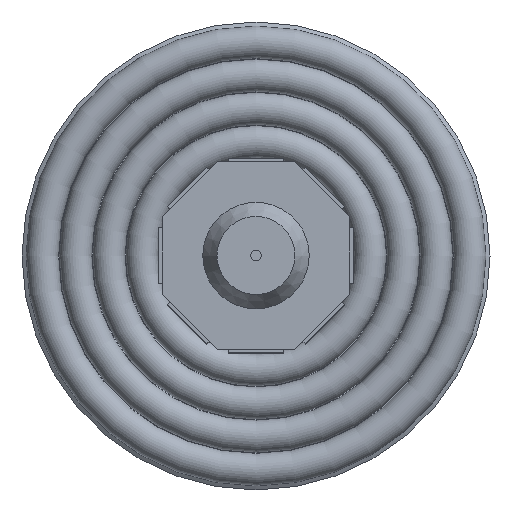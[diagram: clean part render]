
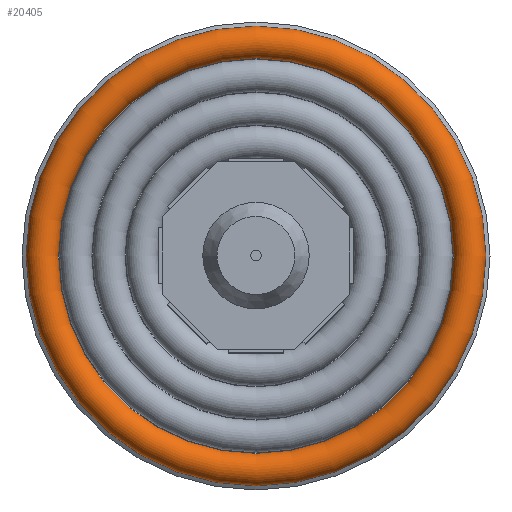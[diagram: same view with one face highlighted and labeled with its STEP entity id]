
A CAD part, top view. The second image highlights one B-rep face of the part: STEP entity #20405.
In plain terms, the highlighted toroidal (fillet/blend) face has major radius 1.206 mm and minor radius 0.091 mm.
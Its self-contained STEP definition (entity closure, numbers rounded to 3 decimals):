
#20405 = ADVANCED_FACE('',(#20406),#20419,.T.);
#20406 = FACE_BOUND('',#20407,.T.);
#20407 = EDGE_LOOP('',(#20408,#20437,#20459,#20460));
#20408 = ORIENTED_EDGE('',*,*,#20409,.F.);
#20409 = EDGE_CURVE('',#20410,#20410,#20412,.T.);
#20410 = VERTEX_POINT('',#20411);
#20411 = CARTESIAN_POINT('',(1.297,0.,0.303
    ));
#20412 = SEAM_CURVE('',#20413,(#20418,#20430),.PCURVE_S1.);
#20413 = CIRCLE('',#20414,1.297);
#20414 = AXIS2_PLACEMENT_3D('',#20415,#20416,#20417);
#20415 = CARTESIAN_POINT('',(0.,0.,0.303));
#20416 = DIRECTION('',(0.,0.,-1.));
#20417 = DIRECTION('',(1.,0.,0.));
#20418 = PCURVE('',#20419,#20424);
#20419 = TOROIDAL_SURFACE('',#20420,1.206,0.091);
#20420 = AXIS2_PLACEMENT_3D('',#20421,#20422,#20423);
#20421 = CARTESIAN_POINT('',(0.,0.,0.303));
#20422 = DIRECTION('',(0.,0.,-1.));
#20423 = DIRECTION('',(1.,0.,0.));
#20424 = DEFINITIONAL_REPRESENTATION('',(#20425),#20429);
#20425 = LINE('',#20426,#20427);
#20426 = CARTESIAN_POINT('',(0.,6.283));
#20427 = VECTOR('',#20428,1.);
#20428 = DIRECTION('',(1.,0.));
#20429 = ( GEOMETRIC_REPRESENTATION_CONTEXT(2) 
PARAMETRIC_REPRESENTATION_CONTEXT() REPRESENTATION_CONTEXT('2D SPACE',''
  ) );
#20430 = PCURVE('',#20419,#20431);
#20431 = DEFINITIONAL_REPRESENTATION('',(#20432),#20436);
#20432 = LINE('',#20433,#20434);
#20433 = CARTESIAN_POINT('',(0.,0.));
#20434 = VECTOR('',#20435,1.);
#20435 = DIRECTION('',(1.,0.));
#20436 = ( GEOMETRIC_REPRESENTATION_CONTEXT(2) 
PARAMETRIC_REPRESENTATION_CONTEXT() REPRESENTATION_CONTEXT('2D SPACE',''
  ) );
#20437 = ORIENTED_EDGE('',*,*,#20438,.F.);
#20438 = EDGE_CURVE('',#20410,#20410,#20439,.T.);
#20439 = SEAM_CURVE('',#20440,(#20445,#20452),.PCURVE_S1.);
#20440 = CIRCLE('',#20441,0.091);
#20441 = AXIS2_PLACEMENT_3D('',#20442,#20443,#20444);
#20442 = CARTESIAN_POINT('',(1.206,0.,0.303)
  );
#20443 = DIRECTION('',(0.,1.,0.));
#20444 = DIRECTION('',(1.,0.,0.));
#20445 = PCURVE('',#20419,#20446);
#20446 = DEFINITIONAL_REPRESENTATION('',(#20447),#20451);
#20447 = LINE('',#20448,#20449);
#20448 = CARTESIAN_POINT('',(6.283,-0.));
#20449 = VECTOR('',#20450,1.);
#20450 = DIRECTION('',(0.,1.));
#20451 = ( GEOMETRIC_REPRESENTATION_CONTEXT(2) 
PARAMETRIC_REPRESENTATION_CONTEXT() REPRESENTATION_CONTEXT('2D SPACE',''
  ) );
#20452 = PCURVE('',#20419,#20453);
#20453 = DEFINITIONAL_REPRESENTATION('',(#20454),#20458);
#20454 = LINE('',#20455,#20456);
#20455 = CARTESIAN_POINT('',(0.,-0.));
#20456 = VECTOR('',#20457,1.);
#20457 = DIRECTION('',(0.,1.));
#20458 = ( GEOMETRIC_REPRESENTATION_CONTEXT(2) 
PARAMETRIC_REPRESENTATION_CONTEXT() REPRESENTATION_CONTEXT('2D SPACE',''
  ) );
#20459 = ORIENTED_EDGE('',*,*,#20409,.T.);
#20460 = ORIENTED_EDGE('',*,*,#20438,.T.);
